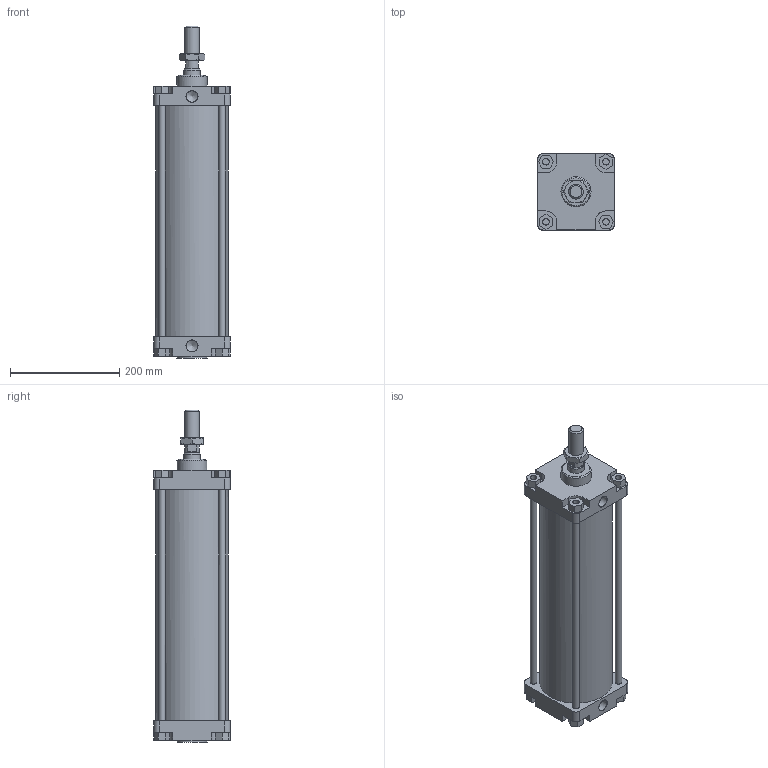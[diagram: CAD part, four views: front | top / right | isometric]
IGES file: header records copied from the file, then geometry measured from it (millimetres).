
Global section: file name: 1303_125_0350_01A; native system: Autodesk Inventor 2014; preprocessor: unknown; author: A. Manieri; date: 20161124.141546; units: millimetre
Bounding box: 140 x 140 x 608 mm (x, y, z)
Volume: 3427370.6 mm3; surface area: 660040.1 mm2
Topology: 9 solids, 9 shells, 175 faces, 440 edges, 295 vertices
Faces by surface type: bspline 175
